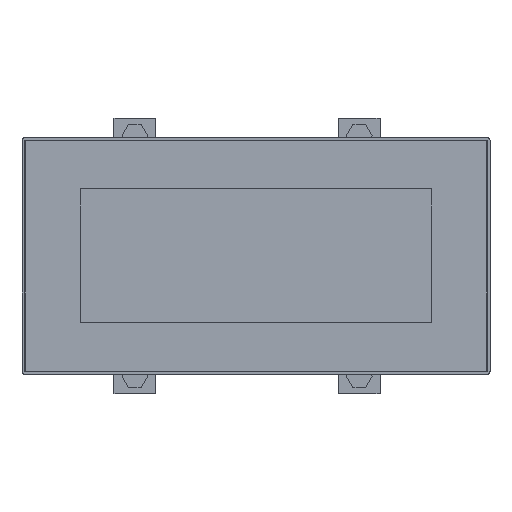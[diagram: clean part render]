
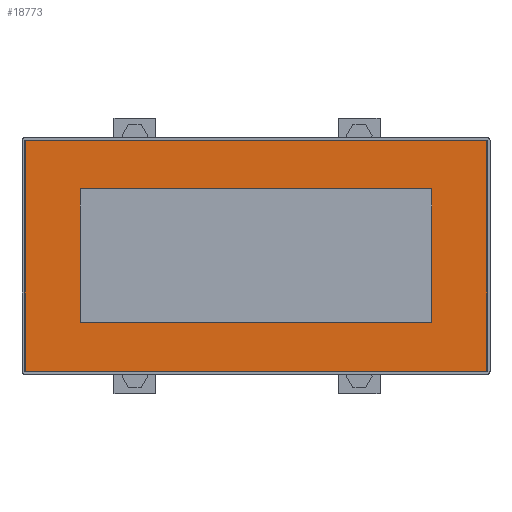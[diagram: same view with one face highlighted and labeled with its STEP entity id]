
A CAD part, top view. The second image highlights one B-rep face of the part: STEP entity #18773.
In plain terms, the highlighted planar face has unit normal (0, 0, 1).
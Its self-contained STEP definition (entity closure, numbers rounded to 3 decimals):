
#76 = LINE ( 'NONE', #18172, #13569 ) ;
#341 = FACE_OUTER_BOUND ( 'NONE', #7534, .T. ) ;
#611 = DIRECTION ( 'NONE',  ( 1., 0., 0. ) ) ;
#1136 = DIRECTION ( 'NONE',  ( 0., -1., 0. ) ) ;
#1216 = ORIENTED_EDGE ( 'NONE', *, *, #19353, .F. ) ;
#1918 = AXIS2_PLACEMENT_3D ( 'NONE', #16731, #14687, #12630 ) ;
#2023 = CARTESIAN_POINT ( 'NONE',  ( 54.9, 20.9, 0. ) ) ;
#2166 = DIRECTION ( 'NONE',  ( -1., 0., 0. ) ) ;
#2584 = ORIENTED_EDGE ( 'NONE', *, *, #6099, .F. ) ;
#2610 = DIRECTION ( 'NONE',  ( 0., -1., 0. ) ) ;
#2699 = CARTESIAN_POINT ( 'NONE',  ( 0., 36., 0. ) ) ;
#2809 = PLANE ( 'NONE',  #1918 ) ;
#3200 = CARTESIAN_POINT ( 'NONE',  ( 72., 0., 0. ) ) ;
#3362 = DIRECTION ( 'NONE',  ( 0., 1., 0. ) ) ;
#3659 = VERTEX_POINT ( 'NONE', #12351 ) ;
#3980 = EDGE_CURVE ( 'NONE', #5791, #6908, #4743, .T. ) ;
#4131 = LINE ( 'NONE', #20095, #13598 ) ;
#4175 = VECTOR ( 'NONE', #3362, 1000. ) ;
#4223 = CARTESIAN_POINT ( 'NONE',  ( -54.9, 20.9, 0. ) ) ;
#4416 = CARTESIAN_POINT ( 'NONE',  ( -72., 36., 0. ) ) ;
#4440 = EDGE_CURVE ( 'NONE', #9768, #12139, #4131, .T. ) ;
#4655 = CARTESIAN_POINT ( 'NONE',  ( -72., 0., 0. ) ) ;
#4743 = LINE ( 'NONE', #2699, #11792 ) ;
#4989 = VERTEX_POINT ( 'NONE', #7485 ) ;
#5064 = VECTOR ( 'NONE', #1136, 1000. ) ;
#5104 = VERTEX_POINT ( 'NONE', #2023 ) ;
#5265 = LINE ( 'NONE', #3200, #5064 ) ;
#5440 = CARTESIAN_POINT ( 'NONE',  ( 54.9, 20.9, 0. ) ) ;
#5786 = CARTESIAN_POINT ( 'NONE',  ( -54.9, 20.9, 0. ) ) ;
#5791 = VERTEX_POINT ( 'NONE', #4416 ) ;
#6099 = EDGE_CURVE ( 'NONE', #6908, #3659, #5265, .T. ) ;
#6714 = LINE ( 'NONE', #4655, #9923 ) ;
#6802 = EDGE_CURVE ( 'NONE', #4989, #5104, #7477, .T. ) ;
#6908 = VERTEX_POINT ( 'NONE', #11253 ) ;
#7477 = LINE ( 'NONE', #5440, #4175 ) ;
#7485 = CARTESIAN_POINT ( 'NONE',  ( 54.9, -20.9, 0. ) ) ;
#7534 = EDGE_LOOP ( 'NONE', ( #2584, #8640, #19026, #16423 ) ) ;
#7879 = VERTEX_POINT ( 'NONE', #20014 ) ;
#8381 = DIRECTION ( 'NONE',  ( 1., 0., 0. ) ) ;
#8640 = ORIENTED_EDGE ( 'NONE', *, *, #3980, .F. ) ;
#8778 = EDGE_CURVE ( 'NONE', #12139, #4989, #76, .T. ) ;
#9071 = ORIENTED_EDGE ( 'NONE', *, *, #8778, .F. ) ;
#9768 = VERTEX_POINT ( 'NONE', #5786 ) ;
#9923 = VECTOR ( 'NONE', #2610, 1000. ) ;
#10462 = CARTESIAN_POINT ( 'NONE',  ( 0., -36., 0. ) ) ;
#10790 = VECTOR ( 'NONE', #2166, 1000. ) ;
#11253 = CARTESIAN_POINT ( 'NONE',  ( 72., 36., 0. ) ) ;
#11792 = VECTOR ( 'NONE', #611, 1000. ) ;
#12139 = VERTEX_POINT ( 'NONE', #12827 ) ;
#12351 = CARTESIAN_POINT ( 'NONE',  ( 72., -36., 0. ) ) ;
#12517 = LINE ( 'NONE', #10462, #12716 ) ;
#12630 = DIRECTION ( 'NONE',  ( 1., 0., 0. ) ) ;
#12633 = ORIENTED_EDGE ( 'NONE', *, *, #4440, .F. ) ;
#12716 = VECTOR ( 'NONE', #8381, 1000. ) ;
#12827 = CARTESIAN_POINT ( 'NONE',  ( -54.9, -20.9, 0. ) ) ;
#13290 = EDGE_LOOP ( 'NONE', ( #12633, #1216, #17530, #9071 ) ) ;
#13569 = VECTOR ( 'NONE', #16114, 1000. ) ;
#13598 = VECTOR ( 'NONE', #18070, 1000. ) ;
#13711 = EDGE_CURVE ( 'NONE', #5791, #7879, #6714, .T. ) ;
#14529 = LINE ( 'NONE', #4223, #10790 ) ;
#14687 = DIRECTION ( 'NONE',  ( 0., 0., 1. ) ) ;
#16114 = DIRECTION ( 'NONE',  ( 1., 0., 0. ) ) ;
#16423 = ORIENTED_EDGE ( 'NONE', *, *, #18694, .T. ) ;
#16731 = CARTESIAN_POINT ( 'NONE',  ( -73., -37., 0. ) ) ;
#17530 = ORIENTED_EDGE ( 'NONE', *, *, #6802, .F. ) ;
#17912 = FACE_BOUND ( 'NONE', #13290, .T. ) ;
#18070 = DIRECTION ( 'NONE',  ( 0., -1., 0. ) ) ;
#18172 = CARTESIAN_POINT ( 'NONE',  ( -54.9, -20.9, 0. ) ) ;
#18694 = EDGE_CURVE ( 'NONE', #7879, #3659, #12517, .T. ) ;
#18773 = ADVANCED_FACE ( 'NONE', ( #17912, #341 ), #2809, .T. ) ;
#19026 = ORIENTED_EDGE ( 'NONE', *, *, #13711, .T. ) ;
#19353 = EDGE_CURVE ( 'NONE', #5104, #9768, #14529, .T. ) ;
#20014 = CARTESIAN_POINT ( 'NONE',  ( -72., -36., 0. ) ) ;
#20095 = CARTESIAN_POINT ( 'NONE',  ( -54.9, 20.9, 0. ) ) ;
